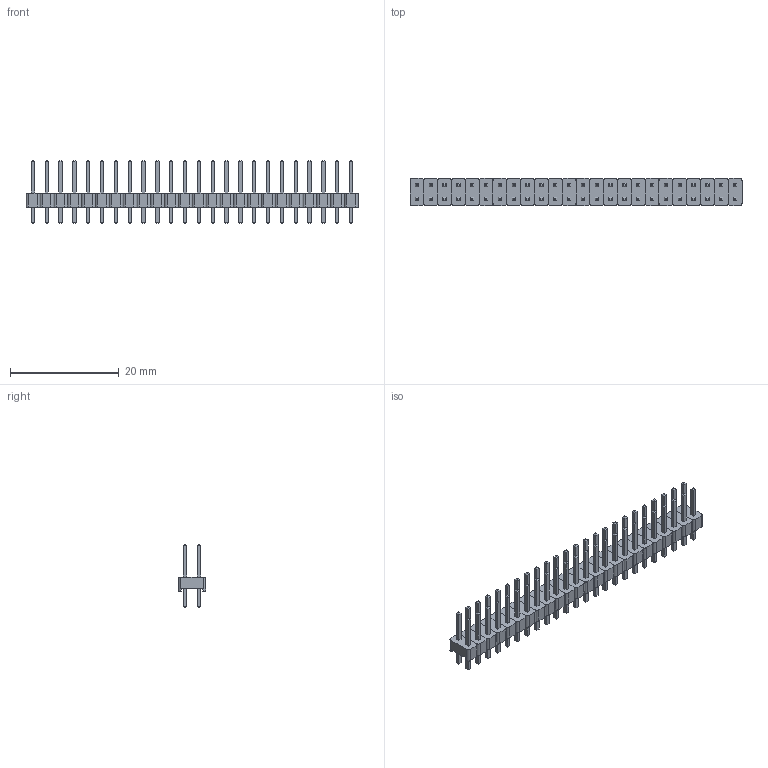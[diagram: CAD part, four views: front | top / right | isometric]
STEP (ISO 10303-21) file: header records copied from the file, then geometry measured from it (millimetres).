
FILE_DESCRIPTION(('FreeCAD Model'),'2;1');
FILE_NAME('Open CASCADE Shape Model','2022-04-06T16:02:06',( 'Engenharia Metaltex'),('Metaltex'), 'Open CASCADE STEP processor 7.5','FreeCAD','Unknown');
FILE_SCHEMA(('AUTOMOTIVE_DESIGN { 1 0 10303 214 1 1 1 1 }'));
Length unit declared in the file: millimetre
Products named in the file (97): BPDC; 24; Base023; Pino047; Pino048; 1; Base; Pino1; Pino2; 2; Base001; Pino003; Pino004; 3; Base002; Pino006; Pino005; 4; Base003; Pino008; Pino007; 5; Base004; Pino009; Pino010; 6; Base005; Pino012; Pino011; 7; Base006; Pino013; Pino014; 8; Base007; Pino015; Pino016; 9; Base008; Pino017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
Assembly tree (96 placements, depth 3):
  BPDC
    24
      Base023
      Pino047
      Pino048
    1
      Base
      Pino1
      Pino2
    2
      Base001
      Pino003
      Pino004
    3
      Base002
      Pino006
      Pino005
    4
      Base003
      Pino008
      Pino007
    5
      Base004
      Pino009
      Pino010
    6
      Base005
      Pino012
      Pino011
    7
      Base006
      Pino013
      Pino014
    8
      Base007
      Pino015
      Pino016
    9
      Base008
      Pino017
      Pino018
    10
      Base009
      Pino019
      Pino020
    11
      Base010
      Pino021
      Pino022
    12
      Base011
      Pino023
      Pino024
    13
      Base012
      Pino025
      Pino026
    14
      Base013
      Pino027
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Bounding box: 60.96 x 5.08 x 11.54 mm (x, y, z)
Volume: 838.1 mm3; surface area: 3087.2 mm2
Topology: 72 solids, 72 shells, 1200 faces, 2784 edges, 1728 vertices
Faces by surface type: plane 1104, cylinder 96
Entity records: 72019 total; most frequent: CARTESIAN_POINT 11953, DIRECTION 11042, LINE 7968, VECTOR 7968, ORIENTED_EDGE 5568, PCURVE 5568, DEFINITIONAL_REPRESENTATION 5568, EDGE_CURVE 2784
